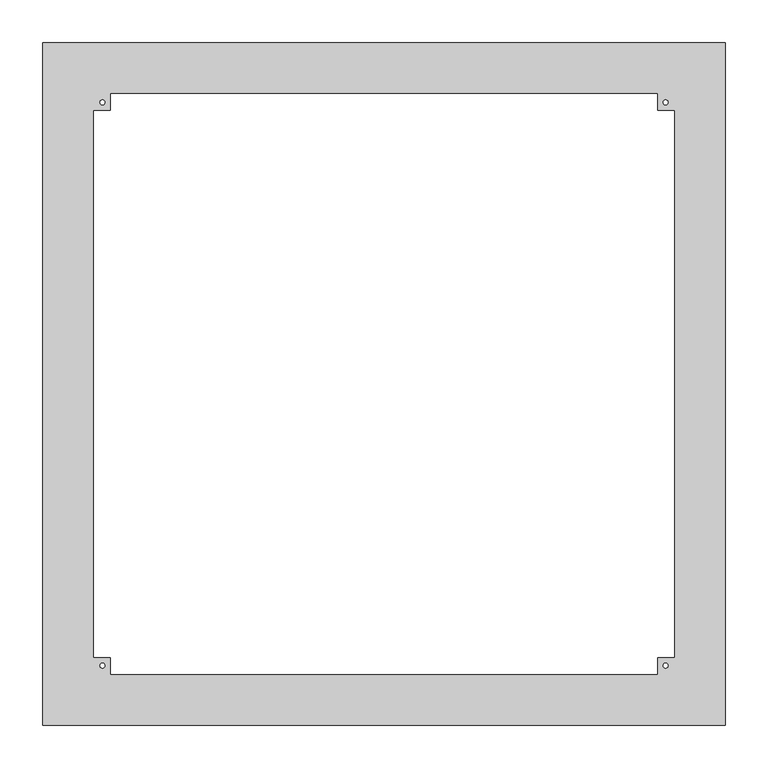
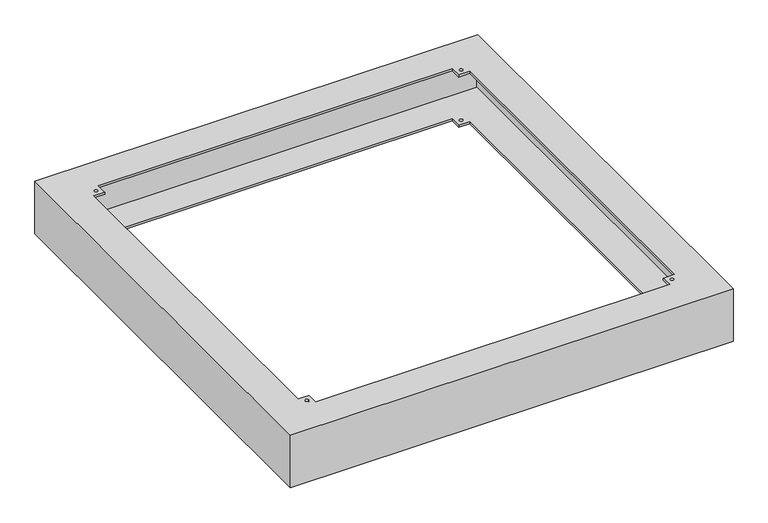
"""IFC4 building model written with IfcOpenShell, lengths in millimetres: furniture geometry, НВО_КНС_Сейсмоцоколь_DKC : Сейсмоцоколь 800x800x100мм."""

from ifc_helpers import new_model, si_unit, frame, origin, place, context, project, spatial, polyline, circle_curve, source, transform, mapped, element, save
from ifc_brep_helpers import plane_surface, revolved_surface, advanced_brep


def furniture_6f4ddcfb(model_context):
    return source(origin(), model_context, "Body", "AdvancedBrep", [
        advanced_brep(
        [(400.0, 400.0, 100.0), (-400.0, 400.0, 100.0), (-400.0, -400.0, 100.0), (400.0, -400.0, 100.0), (320.0, 340.0, 100.0), (320.0, 320.0, 100.0), (340.0, 320.0, 100.0), (340.0, -320.0, 100.0), (320.0, -320.0, 100.0), (320.0, -340.0, 100.0), (-320.0, -340.0, 100.0), (-320.0, -320.0, 100.0), (-340.0, -320.0, 100.0), (-340.0, 320.0, 100.0), (-320.0, 320.0, 100.0), (-320.0, 340.0, 100.0), (-332.8696247, 330.0, 100.0), (-327.1303753, 330.0, 100.0), (327.1303753, 330.0, 100.0), (332.8696247, 330.0, 100.0), (-332.8696247, -330.0, 100.0), (-327.1303753, -330.0, 100.0), (327.1303753, -330.0, 100.0), (332.8696247, -330.0, 100.0), (400.0, 400.0, 0.0), (400.0, -400.0, 0.0), (-400.0, -400.0, 0.0), (-400.0, 400.0, 0.0), (320.0, 340.0, 0.0), (-320.0, 340.0, 0.0), (-320.0, 320.0, 0.0), (-340.0, 320.0, 0.0), (-340.0, -320.0, 0.0), (-320.0, -320.0, 0.0), (-320.0, -340.0, 0.0), (320.0, -340.0, 0.0), (320.0, -320.0, 0.0), (340.0, -320.0, 0.0), (340.0, 320.0, 0.0), (320.0, 320.0, 0.0), (-332.8696247, 330.0, 0.0), (-327.1303753, 330.0, 0.0), (327.1303753, 330.0, 0.0), (332.8696247, 330.0, 0.0), (-332.8696247, -330.0, 0.0), (-327.1303753, -330.0, 0.0), (327.1303753, -330.0, 0.0), (332.8696247, -330.0, 0.0), (320.0, 340.0, 96.0), (320.0, 320.0, 96.0), (320.0, 320.0, 4.0), (320.0, 340.0, 4.0), (340.0, 320.0, 96.0), (340.0, 320.0, 4.0), (340.0, -320.0, 96.0), (340.0, -320.0, 4.0), (320.0, -320.0, 96.0), (320.0, -320.0, 4.0), (320.0, -340.0, 96.0), (320.0, -340.0, 4.0), (-320.0, -340.0, 96.0), (-320.0, -340.0, 4.0), (-320.0, -320.0, 96.0), (-320.0, -320.0, 4.0), (-340.0, -320.0, 96.0), (-340.0, -320.0, 4.0), (-340.0, 320.0, 96.0), (-340.0, 320.0, 4.0), (-320.0, 320.0, 96.0), (-320.0, 320.0, 4.0), (-320.0, 340.0, 96.0), (-320.0, 340.0, 4.0), (-332.8696247, 330.0, 96.0), (-327.1303753, 330.0, 96.0), (-327.1303753, 330.0, 4.0), (-332.8696247, 330.0, 4.0), (327.1303753, 330.0, 96.0), (332.8696247, 330.0, 96.0), (332.8696247, 330.0, 4.0), (327.1303753, 330.0, 4.0), (-332.8696247, -330.0, 96.0), (-327.1303753, -330.0, 96.0), (-327.1303753, -330.0, 4.0), (-332.8696247, -330.0, 4.0), (327.1303753, -330.0, 96.0), (332.8696247, -330.0, 96.0), (332.8696247, -330.0, 4.0), (327.1303753, -330.0, 4.0), (396.0, 396.0, 96.0), (396.0, -396.0, 96.0), (-396.0, -396.0, 96.0), (-396.0, 396.0, 96.0), (396.0, 396.0, 4.0), (-396.0, 396.0, 4.0), (-396.0, -396.0, 4.0), (396.0, -396.0, 4.0)],
        [
            (0, 1),
            (1, 2),
            (2, 3),
            (3, 0),
            (4, 5),
            (5, 6),
            (6, 7),
            (7, 8),
            (8, 9),
            (9, 10),
            (10, 11),
            (11, 12),
            (12, 13),
            (13, 14),
            (14, 15),
            (15, 4),
            (16, 17, circle_curve(frame((-330.0, 330.0, 100.0), z_axis=(0.0, 0.0, -1.0), x_axis=(1.0, 0.0, 0.0)), 2.8696247)),
            (17, 16, circle_curve(frame((-330.0, 330.0, 100.0), z_axis=(0.0, 0.0, -1.0), x_axis=(1.0, 0.0, 0.0)), 2.8696247)),
            (18, 19, circle_curve(frame((330.0, 330.0, 100.0), z_axis=(0.0, 0.0, -1.0), x_axis=(1.0, 0.0, 0.0)), 2.8696247)),
            (19, 18, circle_curve(frame((330.0, 330.0, 100.0), z_axis=(0.0, 0.0, -1.0), x_axis=(1.0, 0.0, 0.0)), 2.8696247)),
            (20, 21, circle_curve(frame((-330.0, -330.0, 100.0), z_axis=(0.0, 0.0, -1.0), x_axis=(1.0, 0.0, 0.0)), 2.8696247)),
            (21, 20, circle_curve(frame((-330.0, -330.0, 100.0), z_axis=(0.0, 0.0, -1.0), x_axis=(1.0, 0.0, 0.0)), 2.8696247)),
            (22, 23, circle_curve(frame((330.0, -330.0, 100.0), z_axis=(0.0, 0.0, -1.0), x_axis=(1.0, 0.0, 0.0)), 2.8696247)),
            (23, 22, circle_curve(frame((330.0, -330.0, 100.0), z_axis=(0.0, 0.0, -1.0), x_axis=(1.0, 0.0, 0.0)), 2.8696247)),
            (24, 25),
            (25, 26),
            (26, 27),
            (27, 24),
            (28, 29),
            (29, 30),
            (30, 31),
            (31, 32),
            (32, 33),
            (33, 34),
            (34, 35),
            (35, 36),
            (36, 37),
            (37, 38),
            (38, 39),
            (39, 28),
            (40, 41, circle_curve(frame((-330.0, 330.0, 0.0), z_axis=(0.0, 0.0, 1.0), x_axis=(1.0, 0.0, 0.0)), 2.8696247)),
            (41, 40, circle_curve(frame((-330.0, 330.0, 0.0), z_axis=(0.0, 0.0, 1.0), x_axis=(1.0, 0.0, 0.0)), 2.8696247)),
            (42, 43, circle_curve(frame((330.0, 330.0, 0.0), z_axis=(0.0, 0.0, 1.0), x_axis=(1.0, 0.0, 0.0)), 2.8696247)),
            (43, 42, circle_curve(frame((330.0, 330.0, 0.0), z_axis=(0.0, 0.0, 1.0), x_axis=(1.0, 0.0, 0.0)), 2.8696247)),
            (44, 45, circle_curve(frame((-330.0, -330.0, 0.0), z_axis=(0.0, 0.0, 1.0), x_axis=(1.0, 0.0, 0.0)), 2.8696247)),
            (45, 44, circle_curve(frame((-330.0, -330.0, 0.0), z_axis=(0.0, 0.0, 1.0), x_axis=(1.0, 0.0, 0.0)), 2.8696247)),
            (46, 47, circle_curve(frame((330.0, -330.0, 0.0), z_axis=(0.0, 0.0, 1.0), x_axis=(1.0, 0.0, 0.0)), 2.8696247)),
            (47, 46, circle_curve(frame((330.0, -330.0, 0.0), z_axis=(0.0, 0.0, 1.0), x_axis=(1.0, 0.0, 0.0)), 2.8696247)),
            (0, 24),
            (27, 1),
            (26, 2),
            (25, 3),
            (4, 48),
            (48, 49),
            (49, 5),
            (39, 50),
            (50, 51),
            (51, 28),
            (49, 52),
            (52, 6),
            (38, 53),
            (53, 50),
            (52, 54),
            (54, 7),
            (37, 55),
            (55, 53),
            (54, 56),
            (56, 8),
            (36, 57),
            (57, 55),
            (56, 58),
            (58, 9),
            (35, 59),
            (59, 57),
            (58, 60),
            (60, 10),
            (34, 61),
            (61, 59),
            (60, 62),
            (62, 11),
            (33, 63),
            (63, 61),
            (62, 64),
            (64, 12),
            (32, 65),
            (65, 63),
            (64, 66),
            (66, 13),
            (31, 67),
            (67, 65),
            (66, 68),
            (68, 14),
            (30, 69),
            (69, 67),
            (68, 70),
            (70, 15),
            (29, 71),
            (71, 69),
            (70, 48),
            (51, 71),
            (16, 72),
            (72, 73, circle_curve(frame((-330.0, 330.0, 96.0), z_axis=(0.0, 0.0, -1.0), x_axis=(1.0, 0.0, 0.0)), 2.8696247)),
            (73, 17),
            (41, 74),
            (74, 75, circle_curve(frame((-330.0, 330.0, 4.0), z_axis=(0.0, 0.0, 1.0), x_axis=(1.0, 0.0, 0.0)), 2.8696247)),
            (75, 40),
            (73, 72, circle_curve(frame((-330.0, 330.0, 96.0), z_axis=(0.0, 0.0, -1.0), x_axis=(1.0, 0.0, 0.0)), 2.8696247)),
            (75, 74, circle_curve(frame((-330.0, 330.0, 4.0), z_axis=(0.0, 0.0, 1.0), x_axis=(1.0, 0.0, 0.0)), 2.8696247)),
            (18, 76),
            (76, 77, circle_curve(frame((330.0, 330.0, 96.0), z_axis=(0.0, 0.0, -1.0), x_axis=(1.0, 0.0, 0.0)), 2.8696247)),
            (77, 19),
            (43, 78),
            (78, 79, circle_curve(frame((330.0, 330.0, 4.0), z_axis=(0.0, 0.0, 1.0), x_axis=(1.0, 0.0, 0.0)), 2.8696247)),
            (79, 42),
            (77, 76, circle_curve(frame((330.0, 330.0, 96.0), z_axis=(0.0, 0.0, -1.0), x_axis=(1.0, 0.0, 0.0)), 2.8696247)),
            (79, 78, circle_curve(frame((330.0, 330.0, 4.0), z_axis=(0.0, 0.0, 1.0), x_axis=(1.0, 0.0, 0.0)), 2.8696247)),
            (20, 80),
            (80, 81, circle_curve(frame((-330.0, -330.0, 96.0), z_axis=(0.0, 0.0, -1.0), x_axis=(1.0, 0.0, 0.0)), 2.8696247)),
            (81, 21),
            (45, 82),
            (82, 83, circle_curve(frame((-330.0, -330.0, 4.0), z_axis=(0.0, 0.0, 1.0), x_axis=(1.0, 0.0, 0.0)), 2.8696247)),
            (83, 44),
            (81, 80, circle_curve(frame((-330.0, -330.0, 96.0), z_axis=(0.0, 0.0, -1.0), x_axis=(1.0, 0.0, 0.0)), 2.8696247)),
            (83, 82, circle_curve(frame((-330.0, -330.0, 4.0), z_axis=(0.0, 0.0, 1.0), x_axis=(1.0, 0.0, 0.0)), 2.8696247)),
            (22, 84),
            (84, 85, circle_curve(frame((330.0, -330.0, 96.0), z_axis=(0.0, 0.0, -1.0), x_axis=(1.0, 0.0, 0.0)), 2.8696247)),
            (85, 23),
            (47, 86),
            (86, 87, circle_curve(frame((330.0, -330.0, 4.0), z_axis=(0.0, 0.0, 1.0), x_axis=(1.0, 0.0, 0.0)), 2.8696247)),
            (87, 46),
            (85, 84, circle_curve(frame((330.0, -330.0, 96.0), z_axis=(0.0, 0.0, -1.0), x_axis=(1.0, 0.0, 0.0)), 2.8696247)),
            (87, 86, circle_curve(frame((330.0, -330.0, 4.0), z_axis=(0.0, 0.0, 1.0), x_axis=(1.0, 0.0, 0.0)), 2.8696247)),
            (88, 89),
            (89, 90),
            (90, 91),
            (91, 88),
            (92, 93),
            (93, 94),
            (94, 95),
            (95, 92),
            (91, 93),
            (92, 88),
            (90, 94),
            (89, 95),
        ],
        [
            plane_surface(frame((-400.0, 400.0, 100.0), z_axis=(0.0, 0.0, 1.0), x_axis=(-1.0, 0.0, 0.0))),
            plane_surface(frame((-400.0, 400.0, 0.0), z_axis=(0.0, 0.0, -1.0), x_axis=(1.0, 0.0, 0.0))),
            plane_surface(frame((400.0, 400.0, 100.0), z_axis=(0.0, 1.0, 0.0), x_axis=(0.0, 0.0, -1.0))),
            plane_surface(frame((-400.0, 400.0, 100.0), z_axis=(-1.0, 0.0, 0.0), x_axis=(0.0, 0.0, -1.0))),
            plane_surface(frame((-400.0, -400.0, 100.0), z_axis=(0.0, -1.0, 0.0), x_axis=(0.0, 0.0, -1.0))),
            plane_surface(frame((400.0, -400.0, 100.0), z_axis=(1.0, 0.0, 0.0), x_axis=(0.0, 0.0, -1.0))),
            plane_surface(frame((320.0, 340.0, 100.0), z_axis=(-1.0, 0.0, 0.0), x_axis=(0.0, 0.0, -1.0))),
            plane_surface(frame((320.0, 320.0, 100.0), z_axis=(0.0, -1.0, 0.0), x_axis=(0.0, 0.0, -1.0))),
            plane_surface(frame((340.0, 320.0, 100.0), z_axis=(-1.0, 0.0, 0.0), x_axis=(0.0, 0.0, -1.0))),
            plane_surface(frame((340.0, -320.0, 100.0), z_axis=(0.0, 1.0, 0.0), x_axis=(0.0, 0.0, -1.0))),
            plane_surface(frame((320.0, -320.0, 100.0), z_axis=(-1.0, 0.0, 0.0), x_axis=(0.0, 0.0, -1.0))),
            plane_surface(frame((320.0, -340.0, 100.0), z_axis=(0.0, 1.0, 0.0), x_axis=(0.0, 0.0, -1.0))),
            plane_surface(frame((-320.0, -340.0, 100.0), z_axis=(1.0, 0.0, 0.0), x_axis=(0.0, 0.0, -1.0))),
            plane_surface(frame((-320.0, -320.0, 100.0), z_axis=(0.0, 1.0, 0.0), x_axis=(0.0, 0.0, -1.0))),
            plane_surface(frame((-340.0, -320.0, 100.0), z_axis=(1.0, 0.0, 0.0), x_axis=(0.0, 0.0, -1.0))),
            plane_surface(frame((-340.0, 320.0, 100.0), z_axis=(0.0, -1.0, 0.0), x_axis=(0.0, 0.0, -1.0))),
            plane_surface(frame((-320.0, 320.0, 100.0), z_axis=(1.0, 0.0, 0.0), x_axis=(0.0, 0.0, -1.0))),
            plane_surface(frame((-320.0, 340.0, 100.0), z_axis=(0.0, -1.0, 0.0), x_axis=(0.0, 0.0, -1.0))),
            revolved_surface(polyline([(-327.1303753, 330.0, 96.0), (-327.1303753, 330.0, 100.0)]), (-330.0, 330.0, 0.0), (0.0, 0.0, -1.0)),
            revolved_surface(polyline([(-327.1303753, 330.0, 0.0), (-327.1303753, 330.0, 4.0)]), (-330.0, 330.0, 0.0), (0.0, 0.0, -1.0)),
            revolved_surface(polyline([(332.8696247, 330.0, 96.0), (332.8696247, 330.0, 100.0)]), (330.0, 330.0, 0.0), (0.0, 0.0, -1.0)),
            revolved_surface(polyline([(332.8696247, 330.0, 0.0), (332.8696247, 330.0, 4.0)]), (330.0, 330.0, 0.0), (0.0, 0.0, -1.0)),
            revolved_surface(polyline([(-327.1303753, -330.0, 96.0), (-327.1303753, -330.0, 100.0)]), (-330.0, -330.0, 0.0), (0.0, 0.0, -1.0)),
            revolved_surface(polyline([(-327.1303753, -330.0, 0.0), (-327.1303753, -330.0, 4.0)]), (-330.0, -330.0, 0.0), (0.0, 0.0, -1.0)),
            revolved_surface(polyline([(332.8696247, -330.0, 96.0), (332.8696247, -330.0, 100.0)]), (330.0, -330.0, 0.0), (0.0, 0.0, -1.0)),
            revolved_surface(polyline([(332.8696247, -330.0, 0.0), (332.8696247, -330.0, 4.0)]), (330.0, -330.0, 0.0), (0.0, 0.0, -1.0)),
            plane_surface(frame((-396.0, 396.0, 96.0), z_axis=(0.0, 0.0, -1.0), x_axis=(-1.0, 0.0, 0.0))),
            plane_surface(frame((-396.0, 396.0, 4.0), z_axis=(0.0, 0.0, 1.0), x_axis=(1.0, 0.0, 0.0))),
            plane_surface(frame((396.0, 396.0, 96.0), z_axis=(0.0, -1.0, 0.0), x_axis=(0.0, 0.0, -1.0))),
            plane_surface(frame((-396.0, 396.0, 96.0), z_axis=(1.0, 0.0, 0.0), x_axis=(0.0, 0.0, -1.0))),
            plane_surface(frame((-396.0, -396.0, 96.0), z_axis=(0.0, 1.0, 0.0), x_axis=(0.0, 0.0, -1.0))),
            plane_surface(frame((396.0, -396.0, 96.0), z_axis=(-1.0, 0.0, 0.0), x_axis=(0.0, 0.0, -1.0))),
        ],
        [
            (0, [[1, 2, 3, 4], [5, 6, 7, 8, 9, 10, 11, 12, 13, 14, 15, 16], [17, 18], [19, 20], [21, 22], [23, 24]]),
            (1, [[25, 26, 27, 28], [29, 30, 31, 32, 33, 34, 35, 36, 37, 38, 39, 40], [41, 42], [43, 44], [45, 46], [47, 48]]),
            (2, [[-1, 49, -28, 50]]),
            (3, [[-2, -50, -27, 51]]),
            (4, [[-3, -51, -26, 52]]),
            (5, [[-4, -52, -25, -49]]),
            (6, [[-5, 53, 54, 55]]),
            (6, [[-40, 56, 57, 58]]),
            (7, [[-6, -55, 59, 60]]),
            (7, [[-39, 61, 62, -56]]),
            (8, [[-7, -60, 63, 64]]),
            (8, [[-38, 65, 66, -61]]),
            (9, [[-8, -64, 67, 68]]),
            (9, [[-37, 69, 70, -65]]),
            (10, [[-9, -68, 71, 72]]),
            (10, [[-36, 73, 74, -69]]),
            (11, [[-10, -72, 75, 76]]),
            (11, [[-35, 77, 78, -73]]),
            (12, [[-11, -76, 79, 80]]),
            (12, [[-34, 81, 82, -77]]),
            (13, [[-12, -80, 83, 84]]),
            (13, [[-33, 85, 86, -81]]),
            (14, [[-13, -84, 87, 88]]),
            (14, [[-32, 89, 90, -85]]),
            (15, [[-14, -88, 91, 92]]),
            (15, [[-31, 93, 94, -89]]),
            (16, [[-15, -92, 95, 96]]),
            (16, [[-30, 97, 98, -93]]),
            (17, [[-16, -96, 99, -53]]),
            (17, [[-29, -58, 100, -97]]),
            (18, [[-17, 101, 102, 103]]),
            (19, [[-42, 104, 105, 106]]),
            (18, [[-18, -103, 107, -101]]),
            (19, [[-41, -106, 108, -104]]),
            (20, [[-19, 109, 110, 111]]),
            (21, [[-44, 112, 113, 114]]),
            (20, [[-20, -111, 115, -109]]),
            (21, [[-43, -114, 116, -112]]),
            (22, [[-21, 117, 118, 119]]),
            (23, [[-46, 120, 121, 122]]),
            (22, [[-22, -119, 123, -117]]),
            (23, [[-45, -122, 124, -120]]),
            (24, [[-23, 125, 126, 127]]),
            (25, [[-48, 128, 129, 130]]),
            (24, [[-24, -127, 131, -125]]),
            (25, [[-47, -130, 132, -128]]),
            (26, [[133, 134, 135, 136], [-54, -99, -95, -91, -87, -83, -79, -75, -71, -67, -63, -59], [-102, -107], [-110, -115], [-118, -123], [-126, -131]]),
            (27, [[137, 138, 139, 140], [-57, -62, -66, -70, -74, -78, -82, -86, -90, -94, -98, -100], [-105, -108], [-113, -116], [-121, -124], [-129, -132]]),
            (28, [[-136, 141, -137, 142]]),
            (29, [[-135, 143, -138, -141]]),
            (30, [[-134, 144, -139, -143]]),
            (31, [[-133, -142, -140, -144]]),
        ],
    ),
    ])


if __name__ == "__main__":
    model = new_model("IFC4")
    model_context = context("Model", 3, world=origin())
    ifc_project = project(units=[si_unit("LENGTHUNIT", "METRE", prefix="MILLI")], contexts=[model_context])
    site = spatial("IfcSite", under=ifc_project)
    building = spatial("IfcBuilding", under=site)
    placement = place(None, origin())
    furniture_shape = furniture_6f4ddcfb(model_context)
    element("IfcFurniture", 1, ObjectType="НВО_КНС_Сейсмоцоколь_DKC : Сейсмоцоколь 800x800x100мм", at=placement, inside=building, context=model_context, shape_type="MappedRepresentation", body=[
        mapped(furniture_shape, transform((0.0, 0.0, 0.0), x_axis=(1.0, 0.0, 0.0), y_axis=(0.0, 1.0, 0.0), z_axis=(0.0, 0.0, 1.0))),
    ])
    save(model, "model.ifc")
